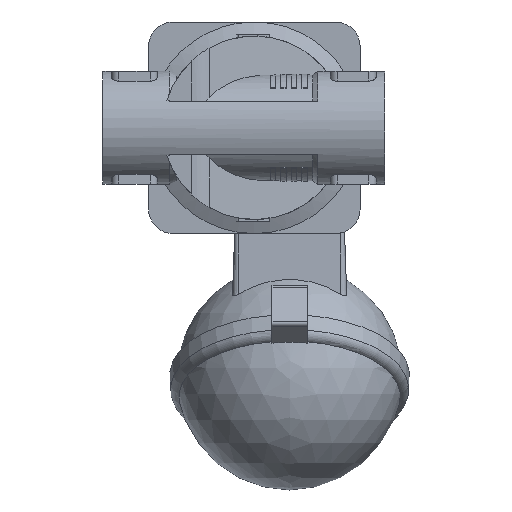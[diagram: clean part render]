
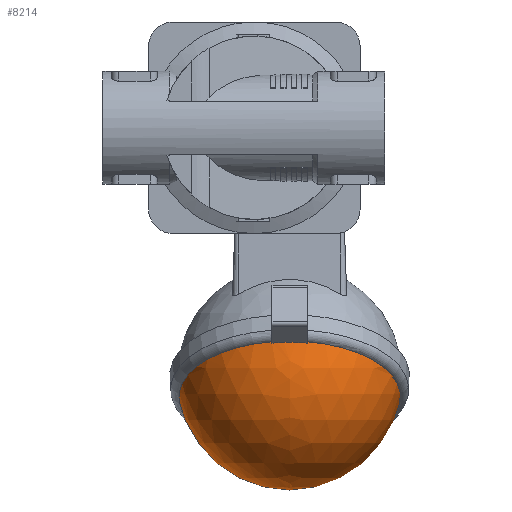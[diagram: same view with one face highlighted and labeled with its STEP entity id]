
A CAD part, front view. The second image highlights one B-rep face of the part: STEP entity #8214.
In plain terms, the highlighted spherical face has radius 32 mm.
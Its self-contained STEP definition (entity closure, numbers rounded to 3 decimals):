
#20=SPHERICAL_SURFACE('',#8865,32.);
#2678=ORIENTED_EDGE('',*,*,#3999,.F.);
#2679=ORIENTED_EDGE('',*,*,#4000,.T.);
#2680=ORIENTED_EDGE('',*,*,#4001,.T.);
#2681=ORIENTED_EDGE('',*,*,#4002,.F.);
#2682=ORIENTED_EDGE('',*,*,#4003,.F.);
#2683=ORIENTED_EDGE('',*,*,#4004,.F.);
#2684=ORIENTED_EDGE('',*,*,#4005,.T.);
#2685=ORIENTED_EDGE('',*,*,#4006,.T.);
#3999=EDGE_CURVE('',#4757,#4758,#5146,.F.);
#4000=EDGE_CURVE('',#4757,#4759,#5147,.F.);
#4001=EDGE_CURVE('',#4759,#4760,#5148,.F.);
#4002=EDGE_CURVE('',#4761,#4760,#5149,.F.);
#4003=EDGE_CURVE('',#4762,#4761,#5150,.F.);
#4004=EDGE_CURVE('',#4763,#4762,#5151,.F.);
#4005=EDGE_CURVE('',#4763,#4764,#5152,.F.);
#4006=EDGE_CURVE('',#4764,#4758,#5153,.F.);
#4757=VERTEX_POINT('',#12824);
#4758=VERTEX_POINT('',#12825);
#4759=VERTEX_POINT('',#12827);
#4760=VERTEX_POINT('',#12829);
#4761=VERTEX_POINT('',#12831);
#4762=VERTEX_POINT('',#12833);
#4763=VERTEX_POINT('',#12835);
#4764=VERTEX_POINT('',#12837);
#5146=CIRCLE('',#8866,31.368);
#5147=CIRCLE('',#8867,31.607);
#5148=CIRCLE('',#8868,31.291);
#5149=CIRCLE('',#8869,31.607);
#5150=CIRCLE('',#8870,31.368);
#5151=CIRCLE('',#8871,30.708);
#5152=CIRCLE('',#8872,30.984);
#5153=CIRCLE('',#8873,30.708);
#5549=EDGE_LOOP('',(#2678,#2679,#2680,#2681,#2682,#2683,#2684,#2685));
#6003=FACE_BOUND('',#5549,.T.);
#8214=ADVANCED_FACE('',(#6003),#20,.T.);
#8865=AXIS2_PLACEMENT_3D('',#12822,#10474,#10475);
#8866=AXIS2_PLACEMENT_3D('',#12823,#10476,#10477);
#8867=AXIS2_PLACEMENT_3D('',#12826,#10478,#10479);
#8868=AXIS2_PLACEMENT_3D('',#12828,#10480,#10481);
#8869=AXIS2_PLACEMENT_3D('',#12830,#10482,#10483);
#8870=AXIS2_PLACEMENT_3D('',#12832,#10484,#10485);
#8871=AXIS2_PLACEMENT_3D('',#12834,#10486,#10487);
#8872=AXIS2_PLACEMENT_3D('',#12836,#10488,#10489);
#8873=AXIS2_PLACEMENT_3D('',#12838,#10490,#10491);
#10474=DIRECTION('',(1.,0.,0.));
#10475=DIRECTION('',(0.,-1.,0.));
#10476=DIRECTION('',(-0.866,-0.5,0.));
#10477=DIRECTION('',(0.5,-0.866,0.));
#10478=DIRECTION('',(0.,0.,1.));
#10479=DIRECTION('',(1.,0.,0.));
#10480=DIRECTION('',(0.866,0.5,0.));
#10481=DIRECTION('',(-0.5,0.866,0.));
#10482=DIRECTION('',(0.,0.,1.));
#10483=DIRECTION('',(1.,0.,0.));
#10484=DIRECTION('',(-0.866,-0.5,0.));
#10485=DIRECTION('',(0.5,-0.866,0.));
#10486=DIRECTION('',(0.,0.,1.));
#10487=DIRECTION('',(1.,0.,0.));
#10488=DIRECTION('',(0.866,0.5,0.));
#10489=DIRECTION('',(-0.5,0.866,0.));
#10490=DIRECTION('',(0.,0.,1.));
#10491=DIRECTION('',(1.,0.,0.));
#12822=CARTESIAN_POINT('',(-70.7,0.,0.));
#12823=CARTESIAN_POINT('',(-76.183,-3.165,0.));
#12824=CARTESIAN_POINT('',(-60.699,-29.983,-5.));
#12825=CARTESIAN_POINT('',(-91.207,22.858,-9.));
#12826=CARTESIAN_POINT('',(-70.7,0.,-5.));
#12827=CARTESIAN_POINT('',(-61.058,-30.1,-5.));
#12828=CARTESIAN_POINT('',(-76.502,-3.35,0.));
#12829=CARTESIAN_POINT('',(-61.058,-30.1,5.));
#12830=CARTESIAN_POINT('',(-70.7,0.,5.));
#12831=CARTESIAN_POINT('',(-60.699,-29.983,5.));
#12832=CARTESIAN_POINT('',(-76.183,-3.165,0.));
#12833=CARTESIAN_POINT('',(-91.207,22.858,9.));
#12834=CARTESIAN_POINT('',(-70.7,0.,9.));
#12835=CARTESIAN_POINT('',(-92.452,21.676,9.));
#12836=CARTESIAN_POINT('',(-77.628,-4.,0.));
#12837=CARTESIAN_POINT('',(-92.452,21.676,-9.));
#12838=CARTESIAN_POINT('',(-70.7,0.,-9.));
